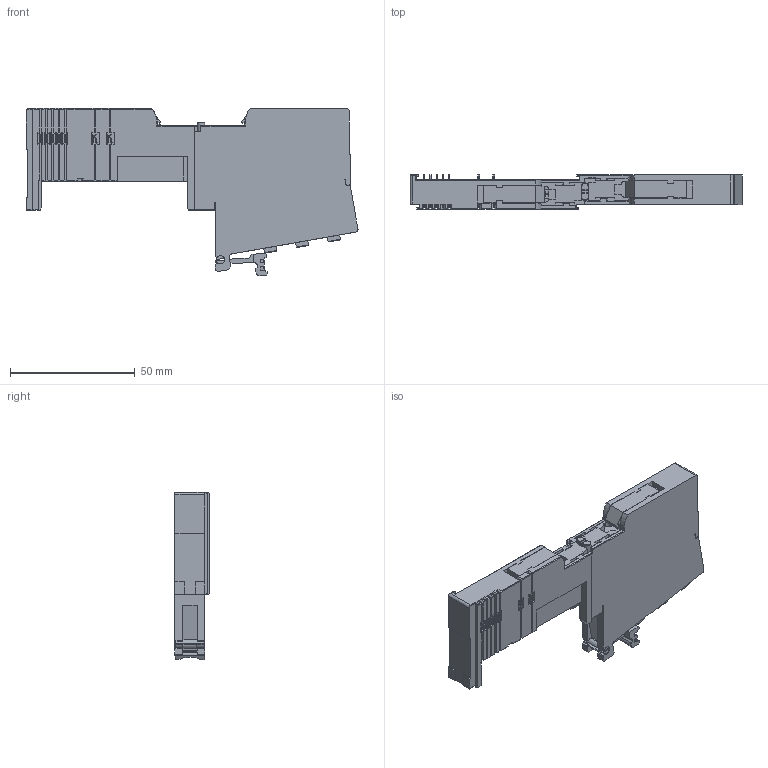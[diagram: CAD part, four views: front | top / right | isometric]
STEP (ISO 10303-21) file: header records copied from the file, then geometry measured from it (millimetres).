
FILE_DESCRIPTION((''),'2;1');
FILE_NAME('10000936856','2014-01-14T',('YSupria'),('Rockwell Automation'),'PRO/ENGINEER BY PARAMETRIC TECHNOLOGY CORPORATION, 2010140','PRO/ENGINEER BY PARAMETRIC TECHNOLOGY CORPORATION, 2010140','');
FILE_SCHEMA(('CONFIG_CONTROL_DESIGN'));
Length unit declared in the file: millimetre
Products named in the file (1): 10000936856
Bounding box: 133.29 x 13.75 x 67.11 mm (x, y, z)
Volume: 56956.8 mm3; surface area: 21542.4 mm2
Topology: 1 solids, 1 shells, 1571 faces, 4485 edges, 2972 vertices
Faces by surface type: plane 1382, cylinder 161, cone 14, sphere 8, torus 6
Entity records: 50558 total; most frequent: CARTESIAN_POINT 9091, ORIENTED_EDGE 8954, DIRECTION 8068, EDGE_CURVE 4477, VECTOR 3990, LINE 3990, VERTEX_POINT 2972, AXIS2_PLACEMENT_3D 2039
